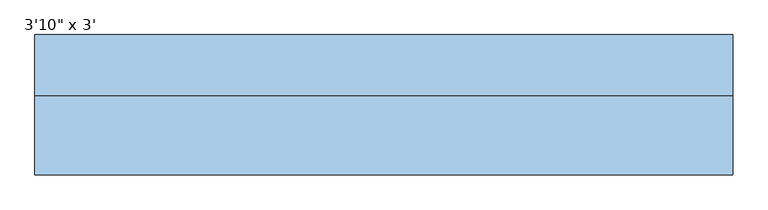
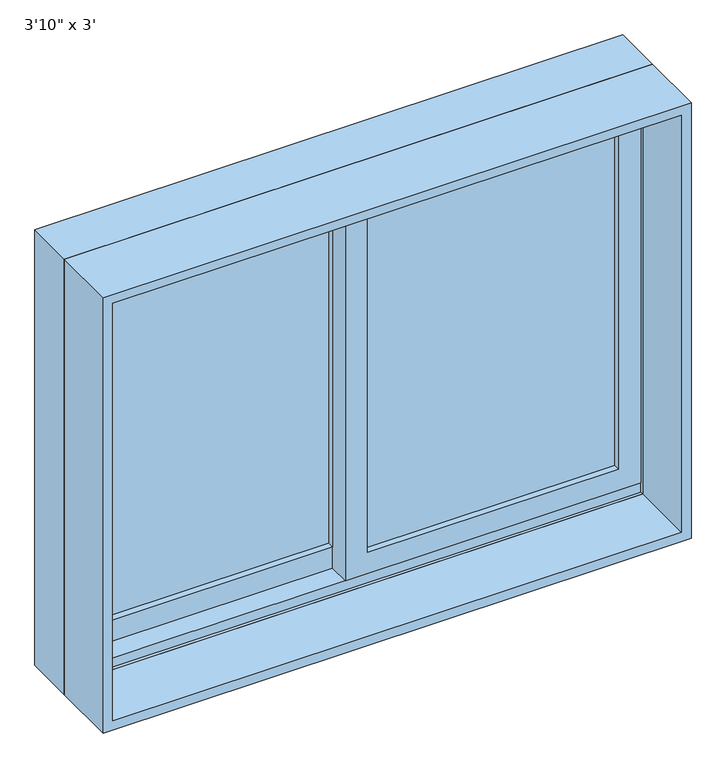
"""IFC4 building model written with IfcOpenShell, lengths in millimetres: window geometry."""

from ifc_helpers import new_model, si_unit, frame, origin, place, context, project, spatial, polyline, outline, extrude, faceted_brep, source, transform, mapped, element, save


def window_e64f82fc(model_context):
    return source(origin(), model_context, "Body", "SolidModel", [
        extrude(outline(polyline([(933.45, -565.15), (933.45, 22.225), (1809.75, 22.225), (1809.75, -565.15), (933.45, -565.15)]), holes=[polyline([(1765.3, -22.225), (996.95, -22.225), (996.95, -520.7), (1765.3, -520.7), (1765.3, -22.225)])]), frame((0.0, 72.39, 0.0), z_axis=(0.0, 1.0, 0.0), x_axis=(0.0, 0.0, 1.0)), (0.0, 0.0, 1.0), 44.45),
        extrude(outline(polyline([(952.5, 565.15), (1809.75, 565.15), (1809.75, -22.225), (952.5, -22.225), (952.5, 565.15)]), holes=[polyline([(996.95, 22.225), (1765.3, 22.225), (1765.3, 520.7), (996.95, 520.7), (996.95, 22.225)])]), frame((0.0, 27.94, 0.0), z_axis=(0.0, 1.0, 0.0), x_axis=(0.0, 0.0, 1.0)), (0.0, 0.0, 1.0), 44.45),
        faceted_brep([(-584.2, 21.59, 914.4), (-584.2, 123.19, 914.4), (584.2, 123.19, 914.4), (584.2, 21.59, 914.4), (-543.2778905, 123.19, 1787.8778905), (-543.2778905, 116.84, 1787.8778905), (-543.2778905, 116.84, 933.45), (-543.2778905, 123.19, 933.45), (543.2778905, 116.84, 1787.8778905), (543.2778905, 116.84, 933.45), (565.15, 116.84, 933.45), (565.15, 116.84, 1809.75), (-565.15, 116.84, 1809.75), (-565.15, 116.84, 933.45), (-565.15, 21.59, 1809.75), (-565.15, 21.59, 933.45), (-565.15, 27.94, 933.45), (-565.15, 27.94, 952.5), (-565.15, 72.39, 952.5), (-565.15, 72.39, 933.45), (584.2, 21.59, 1828.8), (-584.2, 21.59, 1828.8), (565.15, 21.59, 1809.75), (565.15, 21.59, 933.45), (-584.2, 123.19, 1828.8), (584.2, 123.19, 1828.8), (543.2778905, 123.19, 933.45), (543.2778905, 123.19, 1787.8778905), (565.15, 72.39, 933.45), (565.15, 72.39, 952.5), (565.15, 27.94, 952.5), (565.15, 27.94, 933.45)], [[[0, 1, 2, 3]], [[4, 5, 6, 7]], [[5, 8, 9, 10, 11, 12, 13, 6]], [[12, 14, 15, 16, 17, 18, 19, 13]], [[0, 3, 20, 21], [22, 23, 15, 14]], [[24, 1, 0, 21]], [[2, 1, 24, 25], [4, 7, 26, 27]], [[5, 4, 27, 8]], [[12, 11, 22, 14]], [[21, 20, 25, 24]], [[8, 27, 26, 9]], [[22, 11, 10, 28, 29, 30, 31, 23]], [[20, 3, 2, 25]], [[26, 7, 6, 13, 19, 28, 10, 9]], [[28, 19, 18, 29]], [[29, 18, 17, 30]], [[30, 17, 16, 31]], [[15, 23, 31, 16]]]),
        extrude(outline(polyline([(1828.8, -584.2), (914.4, -584.2), (914.4, 584.2), (1828.8, 584.2), (1828.8, -584.2)]), holes=[polyline([(1809.75, 565.15), (933.45, 565.15), (933.45, -565.15), (1809.75, -565.15), (1809.75, 565.15)])]), frame((0.0, -111.76, 0.0), z_axis=(0.0, 1.0, 0.0), x_axis=(0.0, 0.0, 1.0)), (0.0, 0.0, 1.0), 133.35),
        extrude(outline(polyline([(520.7, 59.69), (520.7, 53.34), (22.225, 53.34), (22.225, 59.69), (520.7, 59.69)])), frame((0.0, 0.0, 996.95), z_axis=(0.0, 0.0, 1.0), x_axis=(1.0, 0.0, 0.0)), (0.0, 0.0, 1.0), 768.35),
        extrude(outline(polyline([(520.7, 46.99), (520.7, 40.64), (22.225, 40.64), (22.225, 46.99), (520.7, 46.99)])), frame((0.0, 0.0, 996.95), z_axis=(0.0, 0.0, 1.0), x_axis=(1.0, 0.0, 0.0)), (0.0, 0.0, 1.0), 768.35),
        extrude(outline(polyline([(-22.225, 104.14), (-22.225, 97.79), (-520.7, 97.79), (-520.7, 104.14), (-22.225, 104.14)])), frame((0.0, 0.0, 996.95), z_axis=(0.0, 0.0, 1.0), x_axis=(1.0, 0.0, 0.0)), (0.0, 0.0, 1.0), 768.35),
        extrude(outline(polyline([(-22.225, 91.44), (-22.225, 85.09), (-520.7, 85.09), (-520.7, 91.44), (-22.225, 91.44)])), frame((0.0, 0.0, 996.95), z_axis=(0.0, 0.0, 1.0), x_axis=(1.0, 0.0, 0.0)), (0.0, 0.0, 1.0), 768.35),
    ])


if __name__ == "__main__":
    model = new_model("IFC4")
    model_context = context("Model", 3, world=origin())
    ifc_project = project(units=[si_unit("LENGTHUNIT", "METRE", prefix="MILLI")], contexts=[model_context])
    site = spatial("IfcSite", under=ifc_project)
    building = spatial("IfcBuilding", under=site)
    placement = place(None, origin())
    window_shape = window_e64f82fc(model_context)
    element("IfcWindow", 1, ObjectType="Planitar-Sliding-Double : 3'10\" x 3'", at=placement, inside=building, context=model_context, shape_type="MappedRepresentation", body=[
        mapped(window_shape, transform((0.0, 0.0, 0.0), x_axis=(1.0, 0.0, 0.0), y_axis=(0.0, 1.0, 0.0), z_axis=(0.0, 0.0, 1.0))),
    ])
    save(model, "model.ifc")
